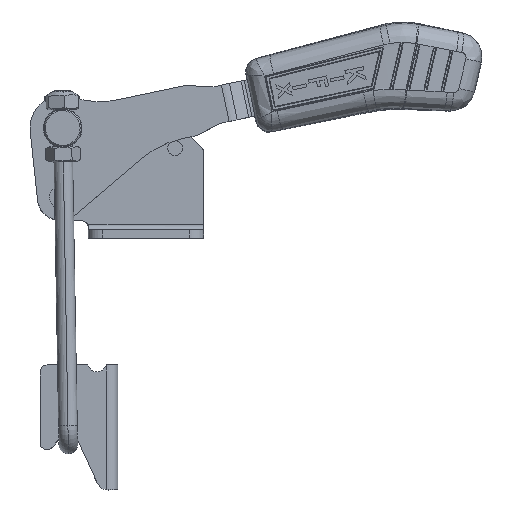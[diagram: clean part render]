
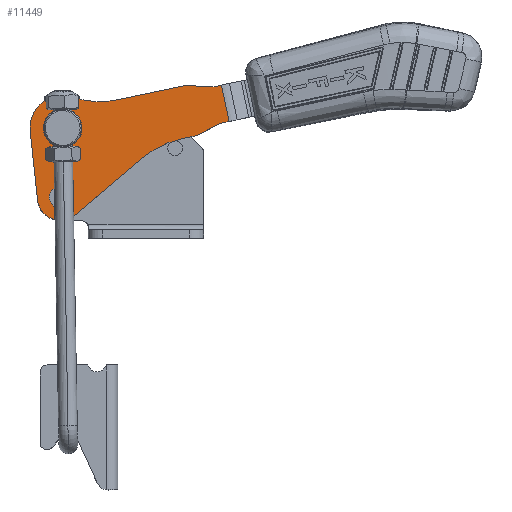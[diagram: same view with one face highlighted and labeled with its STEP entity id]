
A CAD part, top view. The second image highlights one B-rep face of the part: STEP entity #11449.
In plain terms, the highlighted planar face has unit normal (0, 0, 1).
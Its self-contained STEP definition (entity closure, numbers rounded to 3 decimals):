
#143 = FACE_BOUND ( 'NONE', #14725, .T. ) ;
#327 = CIRCLE ( 'NONE', #22960, 8.25 ) ;
#505 = CARTESIAN_POINT ( 'NONE',  ( 0., -7.95, 4.25 ) ) ;
#608 = LINE ( 'NONE', #8361, #5137 ) ;
#733 = FACE_OUTER_BOUND ( 'NONE', #9916, .T. ) ;
#1198 = VECTOR ( 'NONE', #20923, 1000. ) ;
#1330 = CARTESIAN_POINT ( 'NONE',  ( -80., -7.95, 4.25 ) ) ;
#1346 = VECTOR ( 'NONE', #20136, 1000. ) ;
#1428 = CARTESIAN_POINT ( 'NONE',  ( -148.999, -33.488, 4.25 ) ) ;
#1548 = CARTESIAN_POINT ( 'NONE',  ( -121.594, 11., 4.25 ) ) ;
#1617 = EDGE_CURVE ( 'NONE', #24133, #13270, #16813, .T. ) ;
#2133 = DIRECTION ( 'NONE',  ( 0., 0., 1. ) ) ;
#2193 = CARTESIAN_POINT ( 'NONE',  ( -138.344, 4., 4.25 ) ) ;
#2699 = AXIS2_PLACEMENT_3D ( 'NONE', #4424, #18043, #6371 ) ;
#2765 = CARTESIAN_POINT ( 'NONE',  ( -80., -7.95, 4.25 ) ) ;
#2790 = CARTESIAN_POINT ( 'NONE',  ( -91.383, 11., 4.25 ) ) ;
#2836 = CIRCLE ( 'NONE', #7630, 4. ) ;
#3154 = VERTEX_POINT ( 'NONE', #15642 ) ;
#3288 = VECTOR ( 'NONE', #11258, 1000. ) ;
#3313 = CIRCLE ( 'NONE', #13575, 34.143 ) ;
#3320 = CARTESIAN_POINT ( 'NONE',  ( -146.594, 4., 4.25 ) ) ;
#3423 = ORIENTED_EDGE ( 'NONE', *, *, #18669, .T. ) ;
#3606 = CARTESIAN_POINT ( 'NONE',  ( -149.694, -24.8, 4.25 ) ) ;
#3856 = VERTEX_POINT ( 'NONE', #1548 ) ;
#4424 = CARTESIAN_POINT ( 'NONE',  ( -153.694, -24.8, 4.25 ) ) ;
#4885 = ORIENTED_EDGE ( 'NONE', *, *, #10841, .T. ) ;
#4899 = VERTEX_POINT ( 'NONE', #5347 ) ;
#4944 = ORIENTED_EDGE ( 'NONE', *, *, #11390, .F. ) ;
#5082 = VERTEX_POINT ( 'NONE', #2193 ) ;
#5137 = VECTOR ( 'NONE', #10317, 1000. ) ;
#5181 = VERTEX_POINT ( 'NONE', #16191 ) ;
#5262 = DIRECTION ( 'NONE',  ( 1., 0., 0. ) ) ;
#5347 = CARTESIAN_POINT ( 'NONE',  ( -157.694, -24.8, 4.25 ) ) ;
#5775 = EDGE_LOOP ( 'NONE', ( #18444, #19152 ) ) ;
#5926 = ORIENTED_EDGE ( 'NONE', *, *, #7525, .T. ) ;
#6011 = LINE ( 'NONE', #19748, #11189 ) ;
#6088 = DIRECTION ( 'NONE',  ( -0.102, -0.995, 0. ) ) ;
#6207 = VERTEX_POINT ( 'NONE', #21390 ) ;
#6277 = EDGE_CURVE ( 'NONE', #22038, #4899, #23182, .T. ) ;
#6371 = DIRECTION ( 'NONE',  ( 1., 0., 0. ) ) ;
#6437 = EDGE_CURVE ( 'NONE', #21992, #16143, #608, .T. ) ;
#6474 = DIRECTION ( 'NONE',  ( 0., 0., -1. ) ) ;
#6575 = EDGE_CURVE ( 'NONE', #3856, #5181, #3313, .T. ) ;
#6677 = DIRECTION ( 'NONE',  ( 0.966, 0.259, 0. ) ) ;
#6737 = DIRECTION ( 'NONE',  ( 0., 0., 1. ) ) ;
#6817 = CIRCLE ( 'NONE', #15592, 40. ) ;
#6859 = CARTESIAN_POINT ( 'NONE',  ( -146.594, 4., 4.25 ) ) ;
#7270 = CARTESIAN_POINT ( 'NONE',  ( -97.268, -51., 4.25 ) ) ;
#7525 = EDGE_CURVE ( 'NONE', #9530, #15075, #6011, .T. ) ;
#7630 = AXIS2_PLACEMENT_3D ( 'NONE', #18407, #6737, #20388 ) ;
#7788 = EDGE_CURVE ( 'NONE', #9679, #16298, #23136, .T. ) ;
#7872 = CARTESIAN_POINT ( 'NONE',  ( -153.694, -24.8, 4.25 ) ) ;
#8361 = CARTESIAN_POINT ( 'NONE',  ( -91.383, -11., 4.25 ) ) ;
#8472 = VECTOR ( 'NONE', #6677, 1000. ) ;
#8679 = ORIENTED_EDGE ( 'NONE', *, *, #16667, .F. ) ;
#8684 = PLANE ( 'NONE',  #24102 ) ;
#8808 = DIRECTION ( 'NONE',  ( 1., 0., 0. ) ) ;
#8811 = AXIS2_PLACEMENT_3D ( 'NONE', #7872, #21558, #9825 ) ;
#9204 = DIRECTION ( 'NONE',  ( -1., 0., 0. ) ) ;
#9530 = VERTEX_POINT ( 'NONE', #15407 ) ;
#9679 = VERTEX_POINT ( 'NONE', #12241 ) ;
#9825 = DIRECTION ( 'NONE',  ( 1., 0., 0. ) ) ;
#9916 = EDGE_LOOP ( 'NONE', ( #20178, #21609, #11761, #4944, #20519, #21975, #4885, #19033, #10227, #5926, #11923, #3423, #23129 ) ) ;
#10019 = CARTESIAN_POINT ( 'NONE',  ( -163.517, -23.793, 4.25 ) ) ;
#10227 = ORIENTED_EDGE ( 'NONE', *, *, #15031, .T. ) ;
#10317 = DIRECTION ( 'NONE',  ( 1., 0., 0. ) ) ;
#10418 = FACE_BOUND ( 'NONE', #5775, .T. ) ;
#10620 = DIRECTION ( 'NONE',  ( 0., 0., 1. ) ) ;
#10639 = AXIS2_PLACEMENT_3D ( 'NONE', #13768, #2133, #15715 ) ;
#10841 = EDGE_CURVE ( 'NONE', #16298, #3856, #24833, .T. ) ;
#11189 = VECTOR ( 'NONE', #6088, 1000. ) ;
#11258 = DIRECTION ( 'NONE',  ( 0.88, 0.475, 0. ) ) ;
#11390 = EDGE_CURVE ( 'NONE', #18446, #13270, #11668, .T. ) ;
#11449 = ADVANCED_FACE ( 'NONE', ( #733, #10418, #143 ), #8684, .T. ) ;
#11668 = LINE ( 'NONE', #18153, #1346 ) ;
#11761 = ORIENTED_EDGE ( 'NONE', *, *, #1617, .T. ) ;
#11923 = ORIENTED_EDGE ( 'NONE', *, *, #22251, .T. ) ;
#12241 = CARTESIAN_POINT ( 'NONE',  ( -80., 7.95, 4.25 ) ) ;
#12301 = VERTEX_POINT ( 'NONE', #25236 ) ;
#12540 = DIRECTION ( 'NONE',  ( -0.966, 0.259, 0. ) ) ;
#13133 = CARTESIAN_POINT ( 'NONE',  ( -80., 7.95, 4.25 ) ) ;
#13270 = VERTEX_POINT ( 'NONE', #23520 ) ;
#13575 = AXIS2_PLACEMENT_3D ( 'NONE', #18147, #6474, #20131 ) ;
#13768 = CARTESIAN_POINT ( 'NONE',  ( -146.594, 4., 4.25 ) ) ;
#14073 = DIRECTION ( 'NONE',  ( 1., 0., 0. ) ) ;
#14725 = EDGE_LOOP ( 'NONE', ( #8679, #22060 ) ) ;
#14804 = EDGE_CURVE ( 'NONE', #3154, #5082, #327, .T. ) ;
#15031 = EDGE_CURVE ( 'NONE', #5181, #9530, #17336, .T. ) ;
#15075 = VERTEX_POINT ( 'NONE', #10019 ) ;
#15287 = EDGE_CURVE ( 'NONE', #16143, #24133, #24681, .T. ) ;
#15407 = CARTESIAN_POINT ( 'NONE',  ( -160.521, 5.428, 4.25 ) ) ;
#15592 = AXIS2_PLACEMENT_3D ( 'NONE', #7270, #20921, #9204 ) ;
#15642 = CARTESIAN_POINT ( 'NONE',  ( -154.844, 4., 4.25 ) ) ;
#15715 = DIRECTION ( 'NONE',  ( 1., 0., 0. ) ) ;
#15945 = EDGE_CURVE ( 'NONE', #18446, #9679, #16682, .T. ) ;
#16143 = VERTEX_POINT ( 'NONE', #20196 ) ;
#16191 = CARTESIAN_POINT ( 'NONE',  ( -139.324, 15.964, 4.25 ) ) ;
#16298 = VERTEX_POINT ( 'NONE', #24639 ) ;
#16395 = DIRECTION ( 'NONE',  ( -1., 0., 0. ) ) ;
#16667 = EDGE_CURVE ( 'NONE', #5082, #3154, #20418, .T. ) ;
#16682 = LINE ( 'NONE', #13133, #1198 ) ;
#16813 = LINE ( 'NONE', #505, #22062 ) ;
#16910 = DIRECTION ( 'NONE',  ( 0., 0., 1. ) ) ;
#17273 = VECTOR ( 'NONE', #12540, 1000. ) ;
#17336 = CIRCLE ( 'NONE', #10639, 14. ) ;
#18043 = DIRECTION ( 'NONE',  ( 0., 0., 1. ) ) ;
#18147 = CARTESIAN_POINT ( 'NONE',  ( -121.594, 45.143, 4.25 ) ) ;
#18153 = CARTESIAN_POINT ( 'NONE',  ( -76.276, 0., 4.25 ) ) ;
#18398 = CARTESIAN_POINT ( 'NONE',  ( 0., 0., 4.25 ) ) ;
#18407 = CARTESIAN_POINT ( 'NONE',  ( -153.694, -24.8, 4.25 ) ) ;
#18444 = ORIENTED_EDGE ( 'NONE', *, *, #6277, .F. ) ;
#18446 = VERTEX_POINT ( 'NONE', #24075 ) ;
#18669 = EDGE_CURVE ( 'NONE', #12301, #6207, #24033, .T. ) ;
#19033 = ORIENTED_EDGE ( 'NONE', *, *, #6575, .T. ) ;
#19140 = CARTESIAN_POINT ( 'NONE',  ( -97.268, -11., 4.25 ) ) ;
#19152 = ORIENTED_EDGE ( 'NONE', *, *, #24029, .F. ) ;
#19748 = CARTESIAN_POINT ( 'NONE',  ( -163.517, -23.793, 4.25 ) ) ;
#20131 = DIRECTION ( 'NONE',  ( 1., 0., 0. ) ) ;
#20136 = DIRECTION ( 'NONE',  ( 0., -1., 0. ) ) ;
#20178 = ORIENTED_EDGE ( 'NONE', *, *, #6437, .T. ) ;
#20196 = CARTESIAN_POINT ( 'NONE',  ( -91.383, -11., 4.25 ) ) ;
#20323 = CARTESIAN_POINT ( 'NONE',  ( -91.383, 11., 4.25 ) ) ;
#20388 = DIRECTION ( 'NONE',  ( 1., 0., 0. ) ) ;
#20418 = CIRCLE ( 'NONE', #22653, 8.25 ) ;
#20501 = DIRECTION ( 'NONE',  ( 0., 0., 1. ) ) ;
#20519 = ORIENTED_EDGE ( 'NONE', *, *, #15945, .T. ) ;
#20921 = DIRECTION ( 'NONE',  ( 0., 0., -1. ) ) ;
#20923 = DIRECTION ( 'NONE',  ( -1., 0., 0. ) ) ;
#21390 = CARTESIAN_POINT ( 'NONE',  ( -116.284, -15.809, 4.25 ) ) ;
#21558 = DIRECTION ( 'NONE',  ( 0., 0., 1. ) ) ;
#21609 = ORIENTED_EDGE ( 'NONE', *, *, #15287, .T. ) ;
#21975 = ORIENTED_EDGE ( 'NONE', *, *, #7788, .T. ) ;
#21992 = VERTEX_POINT ( 'NONE', #19140 ) ;
#22038 = VERTEX_POINT ( 'NONE', #3606 ) ;
#22060 = ORIENTED_EDGE ( 'NONE', *, *, #14804, .F. ) ;
#22062 = VECTOR ( 'NONE', #14073, 1000. ) ;
#22139 = CIRCLE ( 'NONE', #2699, 9.875 ) ;
#22251 = EDGE_CURVE ( 'NONE', #15075, #12301, #22139, .T. ) ;
#22653 = AXIS2_PLACEMENT_3D ( 'NONE', #6859, #20501, #8808 ) ;
#22960 = AXIS2_PLACEMENT_3D ( 'NONE', #3320, #16910, #5262 ) ;
#23129 = ORIENTED_EDGE ( 'NONE', *, *, #23307, .T. ) ;
#23136 = LINE ( 'NONE', #20323, #17273 ) ;
#23182 = CIRCLE ( 'NONE', #8811, 4. ) ;
#23307 = EDGE_CURVE ( 'NONE', #6207, #21992, #6817, .T. ) ;
#23520 = CARTESIAN_POINT ( 'NONE',  ( -76.276, -7.95, 4.25 ) ) ;
#24029 = EDGE_CURVE ( 'NONE', #4899, #22038, #2836, .T. ) ;
#24033 = LINE ( 'NONE', #1428, #3288 ) ;
#24075 = CARTESIAN_POINT ( 'NONE',  ( -76.276, 7.95, 4.25 ) ) ;
#24102 = AXIS2_PLACEMENT_3D ( 'NONE', #18398, #10620, #24313 ) ;
#24133 = VERTEX_POINT ( 'NONE', #1330 ) ;
#24201 = VECTOR ( 'NONE', #16395, 1000. ) ;
#24313 = DIRECTION ( 'NONE',  ( -1., 0., 0. ) ) ;
#24639 = CARTESIAN_POINT ( 'NONE',  ( -91.383, 11., 4.25 ) ) ;
#24681 = LINE ( 'NONE', #2765, #8472 ) ;
#24833 = LINE ( 'NONE', #2790, #24201 ) ;
#25236 = CARTESIAN_POINT ( 'NONE',  ( -148.999, -33.488, 4.25 ) ) ;
